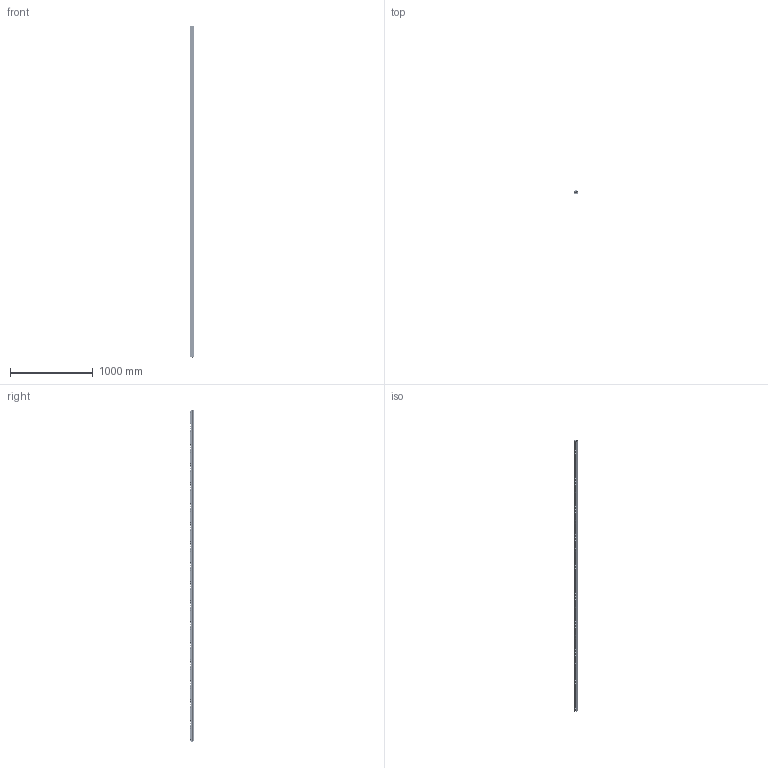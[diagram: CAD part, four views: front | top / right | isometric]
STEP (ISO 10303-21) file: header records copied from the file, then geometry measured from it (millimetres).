
FILE_DESCRIPTION (( 'STEP AP214' ), '1' );
FILE_NAME ('990-004-4000.step', '2022-09-28T08:51:19', ( '' ), ( '' ), 'SwSTEP 2.0', 'SolidWorks 2021', '' );
FILE_SCHEMA (( 'AUTOMOTIVE_DESIGN' ));
Length unit declared in the file: millimetre
Products named in the file (1): 990-004-4000
Bounding box: 41 x 43.48 x 4011.92 mm (x, y, z)
Volume: 1311342.1 mm3; surface area: 1842547.7 mm2
Topology: 520 solids, 520 shells, 16531 faces, 47523 edges, 31682 vertices
Faces by surface type: plane 11462, cylinder 4031, bspline 1038
Full cylindrical faces by diameter (mm): 3 x346, 6 x694, 30 x346, 33 x173
Entity records: 740714 total; most frequent: CARTESIAN_POINT 126010, DIRECTION 89516, ORIENTED_EDGE 88468, EDGE_CURVE 44234, AXIS2_PLACEMENT_3D 31864, VERTEX_POINT 30990, LINE 25788, VECTOR 25788
